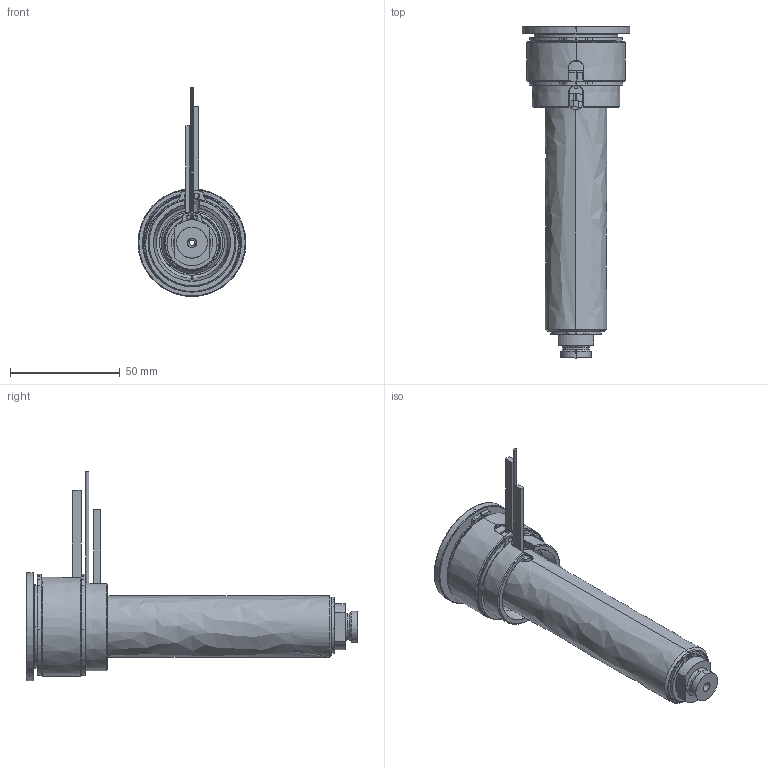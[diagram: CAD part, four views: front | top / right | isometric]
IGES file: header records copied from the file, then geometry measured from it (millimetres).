
Start section: SolidWorks IGES file using analytic representation for surfaces
Global section: file name: C:\Documents and Settings\ws-20\Desktop\TEM\UGBE4503-S-A-5 [Ød-2.5 P-0 ØC-10].IGS; native system: SolidWorks 2012; preprocessor: SolidWorks 2012; author: ws-20; date: 120412.154718; units: millimetre
Bounding box: 49 x 151 x 95.15 mm (x, y, z)
Surface area: 57102.9 mm2 (no closed solid volume)
Topology: 0 solids, 0 shells, 168 faces, 3209 edges, 3209 vertices
Faces by surface type: revolution 106, bspline 62
